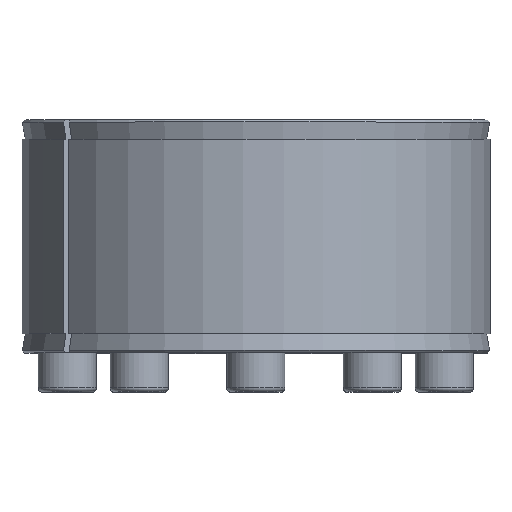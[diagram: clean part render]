
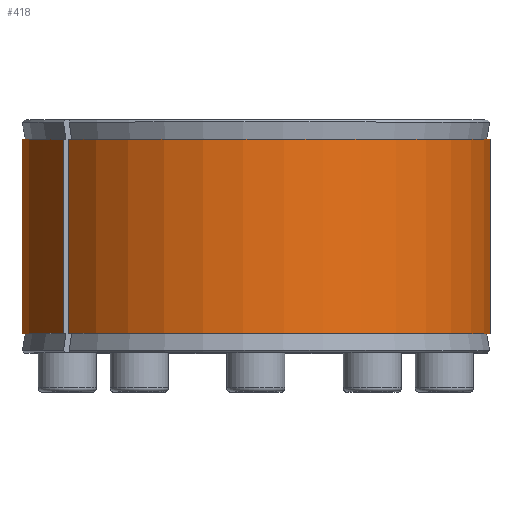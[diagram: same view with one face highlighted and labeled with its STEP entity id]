
A CAD part, top view. The second image highlights one B-rep face of the part: STEP entity #418.
In plain terms, the highlighted cylindrical face has radius 72.5 mm (diameter 145 mm), a partial arc.
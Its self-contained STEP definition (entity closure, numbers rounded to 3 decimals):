
#418 = ADVANCED_FACE( '', ( #722 ), #723, .T. );
#722 = FACE_OUTER_BOUND( '', #984, .T. );
#723 = CYLINDRICAL_SURFACE( '', #985, 72.5 );
#984 = EDGE_LOOP( '', ( #1496, #1497, #1498, #1499 ) );
#985 = AXIS2_PLACEMENT_3D( '', #1500, #1501, #1502 );
#1496 = ORIENTED_EDGE( '', *, *, #1926, .T. );
#1497 = ORIENTED_EDGE( '', *, *, #1895, .T. );
#1498 = ORIENTED_EDGE( '', *, *, #1944, .F. );
#1499 = ORIENTED_EDGE( '', *, *, #2008, .T. );
#1500 = CARTESIAN_POINT( '', ( 0., -60., 0. ) );
#1501 = DIRECTION( '', ( 0., 1., 0. ) );
#1502 = DIRECTION( '', ( 0., 0., -1. ) );
#1895 = EDGE_CURVE( '', #2160, #2158, #2161, .T. );
#1926 = EDGE_CURVE( '', #2216, #2160, #2217, .T. );
#1944 = EDGE_CURVE( '', #2248, #2158, #2249, .T. );
#2008 = EDGE_CURVE( '', #2248, #2216, #2356, .F. );
#2158 = VERTEX_POINT( '', #2505 );
#2160 = VERTEX_POINT( '', #2508 );
#2161 = LINE( '', #2509, #2510 );
#2216 = VERTEX_POINT( '', #2590 );
#2217 = CIRCLE( '', #2591, 72.5 );
#2248 = VERTEX_POINT( '', #2630 );
#2249 = CIRCLE( '', #2631, 72.5 );
#2356 = LINE( '', #3022, #3023 );
#2505 = CARTESIAN_POINT( '', ( -57.759, 6., 43.819 ) );
#2508 = CARTESIAN_POINT( '', ( -57.759, 66., 43.819 ) );
#2509 = CARTESIAN_POINT( '', ( -57.759, -60., 43.819 ) );
#2510 = VECTOR( '', #3120, 1000. );
#2590 = CARTESIAN_POINT( '', ( -59.523, 66., 41.392 ) );
#2591 = AXIS2_PLACEMENT_3D( '', #3182, #3183, #3184 );
#2630 = CARTESIAN_POINT( '', ( -59.523, 6., 41.392 ) );
#2631 = AXIS2_PLACEMENT_3D( '', #3226, #3227, #3228 );
#3022 = CARTESIAN_POINT( '', ( -59.523, -60., 41.392 ) );
#3023 = VECTOR( '', #3369, 1000. );
#3120 = DIRECTION( '', ( 0., -1., 0. ) );
#3182 = CARTESIAN_POINT( '', ( 0., 66., 0. ) );
#3183 = DIRECTION( '', ( 0., -1., 0. ) );
#3184 = DIRECTION( '', ( 0., 0., -1. ) );
#3226 = CARTESIAN_POINT( '', ( 0., 6., 0. ) );
#3227 = DIRECTION( '', ( 0., -1., 0. ) );
#3228 = DIRECTION( '', ( 0., 0., -1. ) );
#3369 = DIRECTION( '', ( 0., -1., 0. ) );
